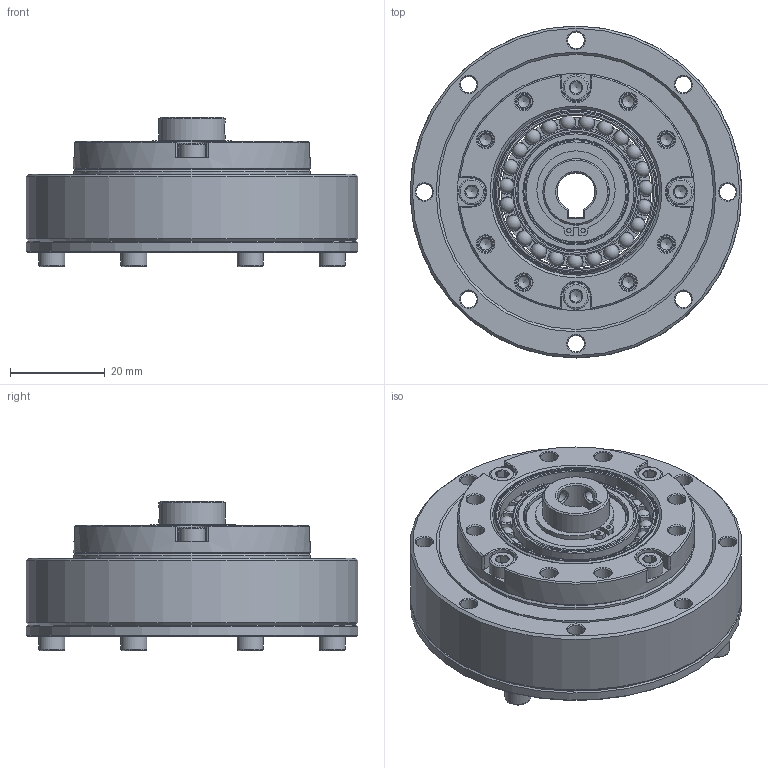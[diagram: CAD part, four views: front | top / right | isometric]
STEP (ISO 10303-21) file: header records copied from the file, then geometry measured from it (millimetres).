
FILE_DESCRIPTION(/* description */ (''),/* implementation_level */ '2;1');
FILE_NAME(/* name */ 'LHG-14-XX-U-II-φ8.stp',/* time_stamp */ '2023-07-08T16:14:22+08:00',/* author */ (''),/* organization */ (''),/* preprocessor_version */ 'ST-DEVELOPER v16.7',/* originating_system */ 'SIEMENS PLM Software NX 12.0',/* authorisation */ '');
FILE_SCHEMA (('AUTOMOTIVE_DESIGN { 1 0 10303 214 3 1 1 1 }'));
Length unit declared in the file: millimetre
Products named in the file (17): EB253406-14KC-46; EB253406-14KE-01; TC-50x58x4; O-38x0.5; O-54x1.5; GB-T70.1-2000,M3x8; GB-T70.1-2000,M3x6; 轴用弹性挡圈φ14; 铜垫圈14.5x21.5x1; CS-14-00-02; CS-14-00-01-K8; CS-14-XX-03; 刚轮LHT-14-I; 柔轮LHT-14; EB253406-14KE ; 交叉轴承LHT-14; LHG-14-XX-U-II-φ8
Assembly tree (22 placements, depth 3):
  LHG-14-XX-U-II-φ8
    交叉轴承LHT-14
      TC-50x58x4
    柔轮LHT-14
    刚轮LHT-14-I
    EB253406-14KE 
      EB253406-14KE-01
      EB253406-14KC-46
    CS-14-XX-03
    CS-14-00-01-K8
    CS-14-00-02
    铜垫圈14.5x21.5x1
    轴用弹性挡圈φ14
    GB-T70.1-2000,M3x6  x4
    GB-T70.1-2000,M3x8  x4
    O-54x1.5
    O-38x0.5
Bounding box: 70 x 70 x 31.5 mm (x, y, z)
Volume: 54031.8 mm3; surface area: 49104 mm2
Topology: 46 solids, 46 shells, 859 faces, 2049 edges, 1258 vertices
Faces by surface type: plane 327, cone 218, cylinder 194, torus 91, sphere 23, bspline 4, revolution 2
Full cylindrical faces by diameter (mm): 0.933 x2, 2.5 x20, 2.874 x8, 3.5 x34, 5.5 x8, 13.4 x1, 14 x2, 14.5 x3, 21.5 x1, 22 x1, 23 x2, 25.07 x2, 26.71 x2, 27.45 x1, 29.7 x1, 31.5 x1, 32.36 x2, 33.92 x2, 34.41 x1, 35.03 x1, 35.16 x1, 35.6 x1, 38 x2, 38.6 x1, 39.4 x1, 45.8 x1, 48 x1, 50 x4, 50.6 x2, 54 x1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
Entity records: 20737 total; most frequent: CARTESIAN_POINT 5041, DIRECTION 3294, ORIENTED_EDGE 2618, AXIS2_PLACEMENT_3D 1439, EDGE_CURVE 1309, EDGE_LOOP 1070, VERTEX_POINT 1010, FACE_BOUND 774
